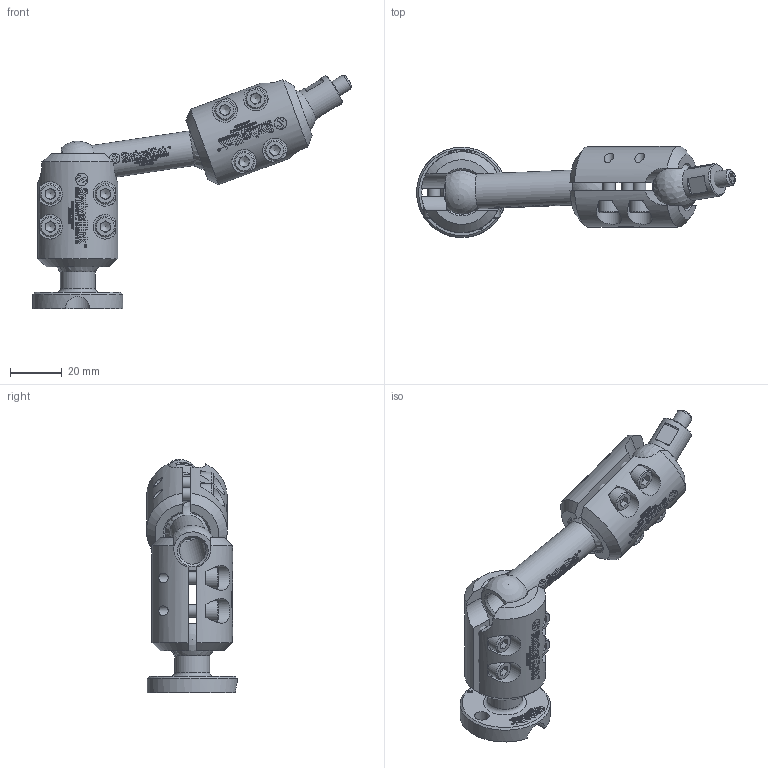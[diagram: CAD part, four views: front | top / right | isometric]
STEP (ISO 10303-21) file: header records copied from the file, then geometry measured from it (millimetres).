
FILE_DESCRIPTION (( 'STEP AP203' ), '1' );
FILE_NAME ('AFSB-1002XS-5XS.STEP', '2019-10-08T17:09:11', ( '' ), ( '' ), 'SwSTEP 2.0', 'SolidWorks 2019', '' );
FILE_SCHEMA (( 'CONFIG_CONTROL_DESIGN' ));
Length unit declared in the file: inch
Products named in the file (10): AFSB-2XS90_Etching; AFSB-5XS; AFSB-2XS90; AFSB-3-2XS_Swivellink Etching; SHCS-23144-BO_SHCS-23144-BO; SSSFP-25348-BO_SSSFP-25348-BO; AFSB-1002XS-5XS; AFSB-5XS_Swivellink Etching; AFSB-1XS_Swivellink Etching
Assembly tree (17 placements, depth 3):
  AFSB-1002XS-5XS
    AFSB-1XS_Swivellink Etching
    AFSB-2XS90
      AFSB-2XS90_Etching
      SHCS-23144-BO_SHCS-23144-BO  x4
    AFSB-3-2XS_Swivellink Etching
    AFSB-2XS90
      AFSB-2XS90_Etching
      SHCS-23144-BO_SHCS-23144-BO  x4
    AFSB-5XS
      AFSB-5XS_Swivellink Etching
      SSSFP-25348-BO_SSSFP-25348-BO
Bounding box: 123.25 x 35.11 x 90.37 mm (x, y, z)
Volume: 56502.9 mm3; surface area: 31885.9 mm2
Topology: 16 solids, 16 shells, 697 faces, 6071 edges, 5796 vertices
Faces by surface type: cylinder 378, plane 248, cone 48, sphere 12, torus 11
Full cylindrical faces by diameter (mm): 3.797 x8, 4.826 x8, 4.976 x1, 5.105 x1, 5.613 x10, 6.35 x1, 7.938 x8, 10.319 x2, 12.7 x1, 13.494 x2, 34.925 x1
Entity records: 51407 total; most frequent: CARTESIAN_POINT 19098, ORIENTED_EDGE 8818, EDGE_CURVE 4409, VERTEX_POINT 4349, DIRECTION 3866, B_SPLINE_CURVE_WITH_KNOTS 2140, VECTOR 1566, LINE 1566
